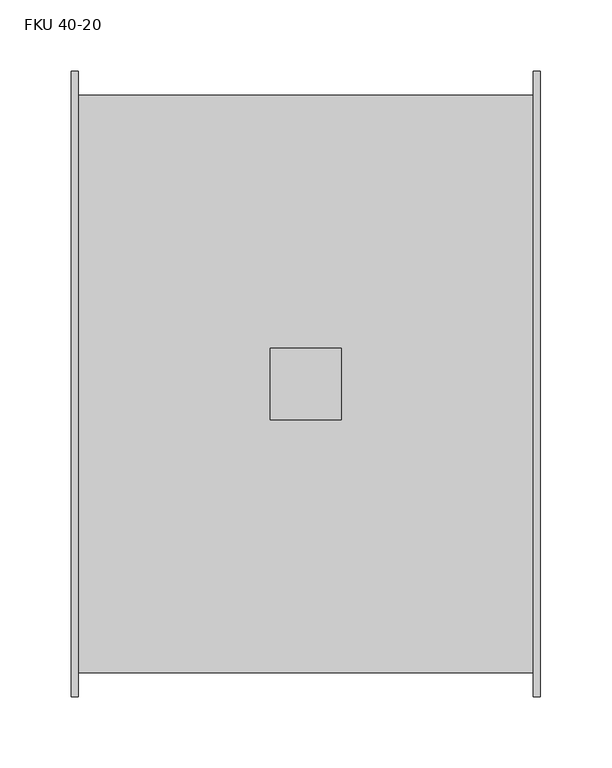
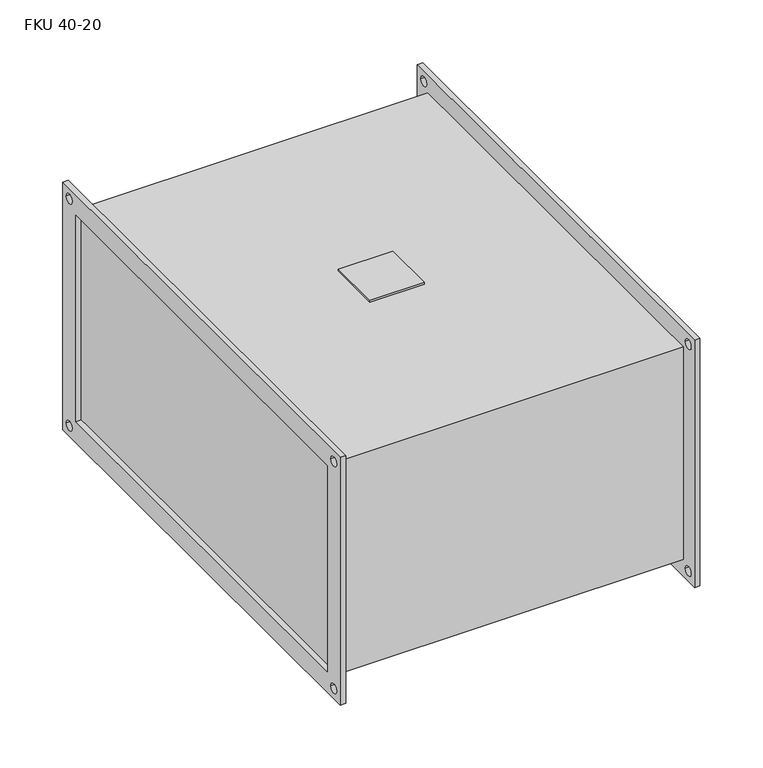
"""IFC4 building model written with IfcOpenShell, lengths in millimetres: damper geometry, KORF_Фильтр_Карманный_Укороченный_FKU : FKU 40-20."""

from ifc_helpers import new_model, si_unit, point, frame, frame_2d, origin, place, context, project, spatial, polyline, circle_curve, trimmed, segment, composite_curve, outline, extrude, source, transform, mapped, element, save


def fku_40_20_ee278247(model_context):
    return source(origin(), model_context, "Body", "SweptSolid", [
        extrude(outline(polyline([(140.0, -25.0), (140.0, 25.0), (190.0, 25.0), (190.0, -25.0), (140.0, -25.0)])), frame((0.0, 0.0, 103.0), z_axis=(0.0, 0.0, 1.0), x_axis=(1.0, 0.0, 0.0)), (0.0, 0.0, 1.0), 2.0),
        extrude(outline(polyline([(-220.0, 120.0), (220.0, 120.0), (220.0, -120.0), (-220.0, -120.0), (-220.0, 120.0)]), holes=[polyline([(-200.0, 100.0), (-200.0, -100.0), (200.0, -100.0), (200.0, 100.0), (-200.0, 100.0)]), composite_curve([segment(trimmed(circle_curve(frame_2d((210.0, 110.0)), 4.5), [point((205.5, 110.0))], [point((214.5, 110.0))], True, "CARTESIAN"), True, "CONTINUOUS"), segment(trimmed(circle_curve(frame_2d((210.0, 110.0)), 4.5), [point((214.5, 110.0))], [point((205.5, 110.0))], True, "CARTESIAN"), True, "CONTINUOUS")], self_intersect=False), composite_curve([segment(trimmed(circle_curve(frame_2d((-210.0, 110.0)), 4.5), [point((-214.5, 110.0))], [point((-205.5, 110.0))], True, "CARTESIAN"), True, "CONTINUOUS"), segment(trimmed(circle_curve(frame_2d((-210.0, 110.0)), 4.5), [point((-205.5, 110.0))], [point((-214.5, 110.0))], True, "CARTESIAN"), True, "CONTINUOUS")], self_intersect=False), composite_curve([segment(trimmed(circle_curve(frame_2d((-210.0, -110.0)), 4.5), [point((-214.5, -110.0))], [point((-205.5, -110.0))], True, "CARTESIAN"), True, "CONTINUOUS"), segment(trimmed(circle_curve(frame_2d((-210.0, -110.0)), 4.5), [point((-205.5, -110.0))], [point((-214.5, -110.0))], True, "CARTESIAN"), True, "CONTINUOUS")], self_intersect=False), composite_curve([segment(trimmed(circle_curve(frame_2d((210.0, -110.0)), 4.5), [point((205.5, -110.0))], [point((214.5, -110.0))], True, "CARTESIAN"), True, "CONTINUOUS"), segment(trimmed(circle_curve(frame_2d((210.0, -110.0)), 4.5), [point((214.5, -110.0))], [point((205.5, -110.0))], True, "CARTESIAN"), True, "CONTINUOUS")], self_intersect=False)]), frame((325.0, 0.0, 0.0), z_axis=(1.0, 0.0, 0.0), x_axis=(0.0, 1.0, 0.0)), (0.0, 0.0, 1.0), 5.0),
        extrude(outline(polyline([(-220.0, 120.0), (220.0, 120.0), (220.0, -120.0), (-220.0, -120.0), (-220.0, 120.0)]), holes=[polyline([(-200.0, 100.0), (-200.0, -100.0), (200.0, -100.0), (200.0, 100.0), (-200.0, 100.0)]), composite_curve([segment(trimmed(circle_curve(frame_2d((210.0, 110.0)), 4.5), [point((205.5, 110.0))], [point((214.5, 110.0))], True, "CARTESIAN"), True, "CONTINUOUS"), segment(trimmed(circle_curve(frame_2d((210.0, 110.0)), 4.5), [point((214.5, 110.0))], [point((205.5, 110.0))], True, "CARTESIAN"), True, "CONTINUOUS")], self_intersect=False), composite_curve([segment(trimmed(circle_curve(frame_2d((-210.0, 110.0)), 4.5), [point((-214.5, 110.0))], [point((-205.5, 110.0))], True, "CARTESIAN"), True, "CONTINUOUS"), segment(trimmed(circle_curve(frame_2d((-210.0, 110.0)), 4.5), [point((-205.5, 110.0))], [point((-214.5, 110.0))], True, "CARTESIAN"), True, "CONTINUOUS")], self_intersect=False), composite_curve([segment(trimmed(circle_curve(frame_2d((-210.0, -110.0)), 4.5), [point((-214.5, -110.0))], [point((-205.5, -110.0))], True, "CARTESIAN"), True, "CONTINUOUS"), segment(trimmed(circle_curve(frame_2d((-210.0, -110.0)), 4.5), [point((-205.5, -110.0))], [point((-214.5, -110.0))], True, "CARTESIAN"), True, "CONTINUOUS")], self_intersect=False), composite_curve([segment(trimmed(circle_curve(frame_2d((210.0, -110.0)), 4.5), [point((205.5, -110.0))], [point((214.5, -110.0))], True, "CARTESIAN"), True, "CONTINUOUS"), segment(trimmed(circle_curve(frame_2d((210.0, -110.0)), 4.5), [point((214.5, -110.0))], [point((205.5, -110.0))], True, "CARTESIAN"), True, "CONTINUOUS")], self_intersect=False)]), frame((0.0, 0.0, 0.0), z_axis=(1.0, 0.0, 0.0), x_axis=(0.0, 1.0, 0.0)), (0.0, 0.0, 1.0), 5.0),
        extrude(outline(polyline([(325.0, 203.0), (325.0, -203.0), (5.0, -203.0), (5.0, 203.0), (325.0, 203.0)])), frame((0.0, 0.0, -103.0), z_axis=(0.0, 0.0, 1.0), x_axis=(1.0, 0.0, 0.0)), (0.0, 0.0, 1.0), 206.0),
    ])


if __name__ == "__main__":
    model = new_model("IFC4")
    model_context = context("Model", 3, world=origin())
    ifc_project = project(units=[si_unit("LENGTHUNIT", "METRE", prefix="MILLI")], contexts=[model_context])
    site = spatial("IfcSite", under=ifc_project)
    building = spatial("IfcBuilding", under=site)
    placement = place(None, origin())
    fku_40_20_shape = fku_40_20_ee278247(model_context)
    element("IfcDamper", 1, ObjectType="KORF_Фильтр_Карманный_Укороченный_FKU : FKU 40-20", at=placement, inside=building, context=model_context, shape_type="MappedRepresentation", body=[
        mapped(fku_40_20_shape, transform((0.0, 0.0, 0.0), x_axis=(1.0, 0.0, 0.0), y_axis=(0.0, 1.0, 0.0), z_axis=(0.0, 0.0, 1.0))),
    ])
    save(model, "model.ifc")
